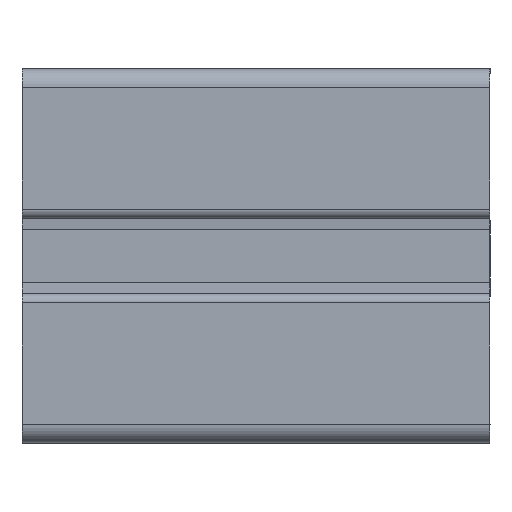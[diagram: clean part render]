
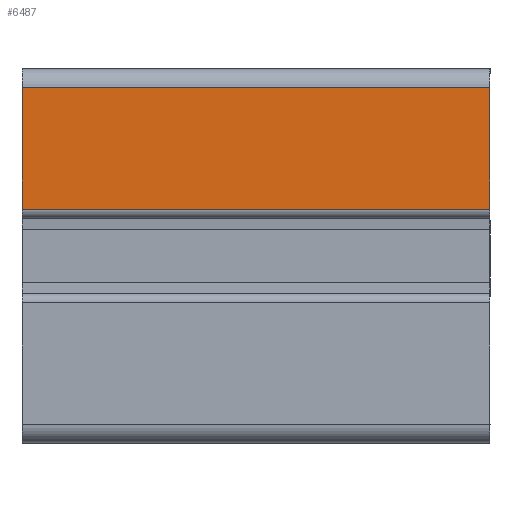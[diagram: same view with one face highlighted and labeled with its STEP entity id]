
A CAD part, left-side view. The second image highlights one B-rep face of the part: STEP entity #6487.
In plain terms, the highlighted planar face has unit normal (-1, 0, 0).
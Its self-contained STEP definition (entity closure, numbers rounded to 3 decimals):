
#147 = CARTESIAN_POINT ( 'NONE',  ( 623.716, 121.369, 30.652 ) ) ;
#358 = FACE_OUTER_BOUND ( 'NONE', #1781, .T. ) ;
#589 = CARTESIAN_POINT ( 'NONE',  ( 623.716, 171.369, 30.652 ) ) ;
#642 = LINE ( 'NONE', #589, #881 ) ;
#687 = CARTESIAN_POINT ( 'NONE',  ( 623.716, 121.369, 17.652 ) ) ;
#750 = ORIENTED_EDGE ( 'NONE', *, *, #4819, .F. ) ;
#881 = VECTOR ( 'NONE', #6643, 1000. ) ;
#924 = EDGE_CURVE ( 'NONE', #6621, #1114, #2658, .T. ) ;
#1112 = AXIS2_PLACEMENT_3D ( 'NONE', #5788, #3096, #1994 ) ;
#1114 = VERTEX_POINT ( 'NONE', #6861 ) ;
#1333 = ORIENTED_EDGE ( 'NONE', *, *, #5725, .T. ) ;
#1391 = EDGE_CURVE ( 'NONE', #6430, #1114, #1707, .T. ) ;
#1658 = VECTOR ( 'NONE', #3437, 1000. ) ;
#1707 = LINE ( 'NONE', #2768, #4364 ) ;
#1781 = EDGE_LOOP ( 'NONE', ( #1333, #750, #4384, #6328 ) ) ;
#1945 = PLANE ( 'NONE',  #1112 ) ;
#1994 = DIRECTION ( 'NONE',  ( 0., 0., 1. ) ) ;
#2060 = VERTEX_POINT ( 'NONE', #147 ) ;
#2658 = LINE ( 'NONE', #5499, #4454 ) ;
#2768 = CARTESIAN_POINT ( 'NONE',  ( 623.716, 171.369, 17.652 ) ) ;
#3096 = DIRECTION ( 'NONE',  ( -1., 0., 0. ) ) ;
#3437 = DIRECTION ( 'NONE',  ( 0., 0., 1. ) ) ;
#4364 = VECTOR ( 'NONE', #4387, 1000. ) ;
#4384 = ORIENTED_EDGE ( 'NONE', *, *, #1391, .T. ) ;
#4387 = DIRECTION ( 'NONE',  ( 0., -1., 0. ) ) ;
#4454 = VECTOR ( 'NONE', #5400, 1000. ) ;
#4606 = CARTESIAN_POINT ( 'NONE',  ( 623.716, 121.369, 17.652 ) ) ;
#4819 = EDGE_CURVE ( 'NONE', #6430, #2060, #6310, .T. ) ;
#4903 = CARTESIAN_POINT ( 'NONE',  ( 623.716, 71.369, 30.652 ) ) ;
#5400 = DIRECTION ( 'NONE',  ( 0., 0., -1. ) ) ;
#5499 = CARTESIAN_POINT ( 'NONE',  ( 623.716, 71.369, 12.648 ) ) ;
#5725 = EDGE_CURVE ( 'NONE', #6621, #2060, #642, .T. ) ;
#5788 = CARTESIAN_POINT ( 'NONE',  ( 623.716, 171.369, 17.652 ) ) ;
#6310 = LINE ( 'NONE', #4606, #1658 ) ;
#6328 = ORIENTED_EDGE ( 'NONE', *, *, #924, .F. ) ;
#6430 = VERTEX_POINT ( 'NONE', #687 ) ;
#6487 = ADVANCED_FACE ( 'NONE', ( #358 ), #1945, .T. ) ;
#6621 = VERTEX_POINT ( 'NONE', #4903 ) ;
#6643 = DIRECTION ( 'NONE',  ( 0., 1., 0. ) ) ;
#6861 = CARTESIAN_POINT ( 'NONE',  ( 623.716, 71.369, 17.652 ) ) ;
